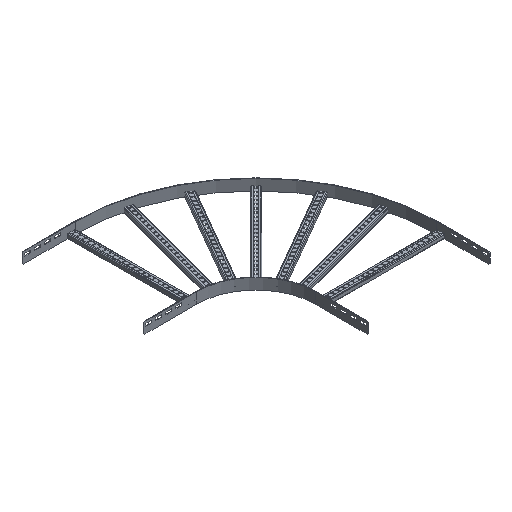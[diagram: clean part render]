
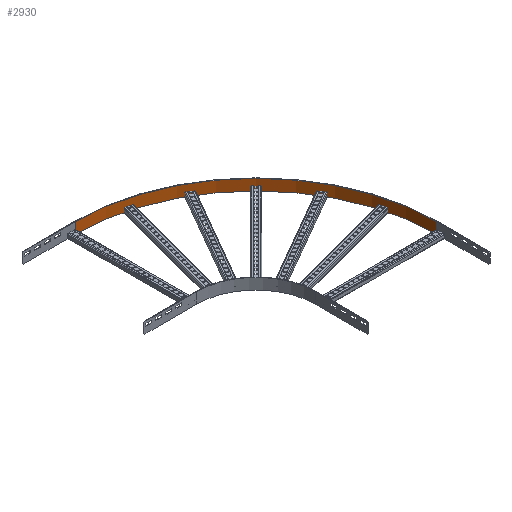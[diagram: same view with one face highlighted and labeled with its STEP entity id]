
A CAD part, isometric view. The second image highlights one B-rep face of the part: STEP entity #2930.
In plain terms, the highlighted cylindrical face has radius 905 mm (diameter 1810 mm), a partial arc.
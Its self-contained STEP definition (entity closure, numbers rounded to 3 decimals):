
#450=CARTESIAN_POINT('',(905.,-908.,-90.));
#460=VERTEX_POINT('',#450);
#490=CARTESIAN_POINT('',(0.,-908.,-90.));
#500=DIRECTION('',(0.,0.,1.));
#510=DIRECTION('',(0.,-1.,0.));
#520=AXIS2_PLACEMENT_3D('',#490,#500,#510);
#530=CIRCLE('',#520,905.);
#540=CARTESIAN_POINT('',(0.,-3.,-90.));
#550=VERTEX_POINT('',#540);
#560=EDGE_CURVE('',#460,#550,#530,.T.);
#2620=CARTESIAN_POINT('',(0.,-908.,-90.));
#2630=DIRECTION('',(0.,0.,1.));
#2640=DIRECTION('',(0.,-1.,0.));
#2650=AXIS2_PLACEMENT_3D('',#2620,#2630,#2640);
#2660=CYLINDRICAL_SURFACE('',#2650,905.);
#2670=ORIENTED_EDGE('',*,*,#560,.T.);
#2680=CARTESIAN_POINT('',(905.,-908.,0.));
#2690=DIRECTION('',(0.,0.,1.));
#2700=VECTOR('',#2690,1.);
#2710=LINE('',#2680,#2700);
#2720=CARTESIAN_POINT('',(905.,-908.,-145.));
#2730=VERTEX_POINT('',#2720);
#2740=EDGE_CURVE('',#2730,#460,#2710,.T.);
#2750=ORIENTED_EDGE('',*,*,#2740,.T.);
#2760=CARTESIAN_POINT('',(0.,-908.,-145.));
#2770=DIRECTION('',(0.,0.,1.));
#2780=DIRECTION('',(0.,-1.,0.));
#2790=AXIS2_PLACEMENT_3D('',#2760,#2770,#2780);
#2800=CIRCLE('',#2790,905.);
#2810=CARTESIAN_POINT('',(0.,-3.,-145.));
#2820=VERTEX_POINT('',#2810);
#2830=EDGE_CURVE('',#2730,#2820,#2800,.T.);
#2840=ORIENTED_EDGE('',*,*,#2830,.F.);
#2850=CARTESIAN_POINT('',(0.,-3.,0.));
#2860=DIRECTION('',(0.,0.,1.));
#2870=VECTOR('',#2860,1.);
#2880=LINE('',#2850,#2870);
#2890=EDGE_CURVE('',#2820,#550,#2880,.T.);
#2900=ORIENTED_EDGE('',*,*,#2890,.F.);
#2910=EDGE_LOOP('',(#2900,#2840,#2750,#2670));
#2920=FACE_OUTER_BOUND('',#2910,.T.);
#2930=ADVANCED_FACE('',(#2920),#2660,.F.);
